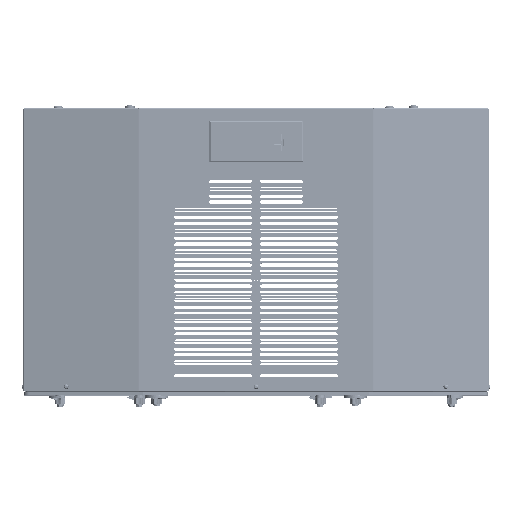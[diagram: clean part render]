
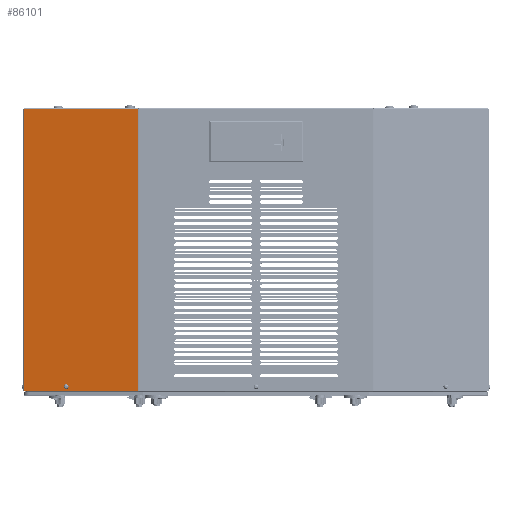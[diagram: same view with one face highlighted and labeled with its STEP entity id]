
A CAD part, top view. The second image highlights one B-rep face of the part: STEP entity #86101.
In plain terms, the highlighted planar face has unit normal (-0.174, 0, 0.985).
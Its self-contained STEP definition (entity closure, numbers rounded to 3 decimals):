
#3235 = DIRECTION ( 'NONE',  ( 0.985, 0., 0.174 ) ) ;
#3648 = CARTESIAN_POINT ( 'NONE',  ( -396.438, 481.1, 250.039 ) ) ;
#5437 = CARTESIAN_POINT ( 'NONE',  ( -324.941, 6., 262.646 ) ) ;
#10620 = VERTEX_POINT ( 'NONE', #75903 ) ;
#13368 = ORIENTED_EDGE ( 'NONE', *, *, #43612, .T. ) ;
#14526 = VERTEX_POINT ( 'NONE', #217756 ) ;
#15076 = AXIS2_PLACEMENT_3D ( 'NONE', #5437, #186628, #3235 ) ;
#18037 = ORIENTED_EDGE ( 'NONE', *, *, #177213, .T. ) ;
#27476 = CARTESIAN_POINT ( 'NONE',  ( -299.705, 249., 267.096 ) ) ;
#28008 = AXIS2_PLACEMENT_3D ( 'NONE', #27476, #178649, #94163 ) ;
#29804 = CARTESIAN_POINT ( 'NONE',  ( -396.438, 481.1, 250.039 ) ) ;
#37307 = DIRECTION ( 'NONE',  ( 0.985, 0., 0.174 ) ) ;
#37716 = EDGE_CURVE ( 'NONE', #139993, #131812, #153827, .T. ) ;
#38091 = DIRECTION ( 'NONE',  ( 0.985, 0., 0.174 ) ) ;
#38925 = EDGE_CURVE ( 'NONE', #125644, #139993, #112583, .T. ) ;
#41527 = DIRECTION ( 'NONE',  ( 0.174, 0., -0.985 ) ) ;
#43612 = EDGE_CURVE ( 'NONE', #10620, #14526, #120817, .T. ) ;
#46838 = EDGE_CURVE ( 'NONE', #67033, #179884, #127323, .T. ) ;
#47964 = AXIS2_PLACEMENT_3D ( 'NONE', #161499, #41527, #109287 ) ;
#59781 = EDGE_CURVE ( 'NONE', #204065, #183757, #204003, .T. ) ;
#66144 = VECTOR ( 'NONE', #136055, 1000. ) ;
#67033 = VERTEX_POINT ( 'NONE', #137640 ) ;
#73133 = EDGE_CURVE ( 'NONE', #183757, #125644, #206983, .T. ) ;
#74716 = CARTESIAN_POINT ( 'NONE',  ( -201.622, 481.1, 284.39 ) ) ;
#75903 = CARTESIAN_POINT ( 'NONE',  ( -322.233, 6., 263.123 ) ) ;
#79542 = FACE_BOUND ( 'NONE', #199566, .T. ) ;
#82114 = EDGE_CURVE ( 'NONE', #179884, #67033, #143749, .T. ) ;
#83695 = DIRECTION ( 'NONE',  ( 0.985, 0., 0.174 ) ) ;
#85991 = CIRCLE ( 'NONE', #15076, 2.75 ) ;
#86101 = ADVANCED_FACE ( 'NONE', ( #113964, #178508, #79542 ), #181759, .F. ) ;
#94163 = DIRECTION ( 'NONE',  ( -0.985, 0., -0.174 ) ) ;
#94435 = EDGE_LOOP ( 'NONE', ( #13368, #18037 ) ) ;
#96065 = ORIENTED_EDGE ( 'NONE', *, *, #59781, .F. ) ;
#96200 = CARTESIAN_POINT ( 'NONE',  ( -201., 481.1, 284.5 ) ) ;
#105522 = CARTESIAN_POINT ( 'NONE',  ( -396.438, -1., 250.039 ) ) ;
#109287 = DIRECTION ( 'NONE',  ( -0.985, 0., -0.174 ) ) ;
#112583 = LINE ( 'NONE', #180377, #212038 ) ;
#113964 = FACE_BOUND ( 'NONE', #94435, .T. ) ;
#120817 = CIRCLE ( 'NONE', #212951, 2.75 ) ;
#125644 = VERTEX_POINT ( 'NONE', #146744 ) ;
#126267 = DIRECTION ( 'NONE',  ( -0.985, 0., -0.174 ) ) ;
#127323 = CIRCLE ( 'NONE', #28008, 0.05 ) ;
#127956 = VECTOR ( 'NONE', #38091, 1000. ) ;
#131812 = VERTEX_POINT ( 'NONE', #105522 ) ;
#133367 = ORIENTED_EDGE ( 'NONE', *, *, #82114, .T. ) ;
#136055 = DIRECTION ( 'NONE',  ( -0.985, 0., -0.174 ) ) ;
#137640 = CARTESIAN_POINT ( 'NONE',  ( -299.656, 249., 267.104 ) ) ;
#138234 = CARTESIAN_POINT ( 'NONE',  ( -201.224, -1., 284.461 ) ) ;
#139993 = VERTEX_POINT ( 'NONE', #168233 ) ;
#140684 = ORIENTED_EDGE ( 'NONE', *, *, #37716, .F. ) ;
#141133 = VECTOR ( 'NONE', #189215, 1000. ) ;
#142958 = DIRECTION ( 'NONE',  ( 0.174, 0., -0.985 ) ) ;
#143749 = CIRCLE ( 'NONE', #47964, 0.05 ) ;
#146744 = CARTESIAN_POINT ( 'NONE',  ( -201.224, 481.1, 284.461 ) ) ;
#151980 = AXIS2_PLACEMENT_3D ( 'NONE', #96200, #142958, #126267 ) ;
#153827 = LINE ( 'NONE', #138234, #66144 ) ;
#154001 = CARTESIAN_POINT ( 'NONE',  ( -201., 481.1, 284.5 ) ) ;
#161499 = CARTESIAN_POINT ( 'NONE',  ( -299.705, 249., 267.096 ) ) ;
#168233 = CARTESIAN_POINT ( 'NONE',  ( -201.224, -1., 284.461 ) ) ;
#168407 = ORIENTED_EDGE ( 'NONE', *, *, #38925, .F. ) ;
#169247 = CARTESIAN_POINT ( 'NONE',  ( -324.941, 6., 262.646 ) ) ;
#169900 = ORIENTED_EDGE ( 'NONE', *, *, #194772, .F. ) ;
#171423 = DIRECTION ( 'NONE',  ( 0.174, 0., -0.985 ) ) ;
#177213 = EDGE_CURVE ( 'NONE', #14526, #10620, #85991, .T. ) ;
#178508 = FACE_OUTER_BOUND ( 'NONE', #205125, .T. ) ;
#178649 = DIRECTION ( 'NONE',  ( 0.174, 0., -0.985 ) ) ;
#179884 = VERTEX_POINT ( 'NONE', #183196 ) ;
#180377 = CARTESIAN_POINT ( 'NONE',  ( -201.224, -242.052, 284.461 ) ) ;
#181759 = PLANE ( 'NONE',  #151980 ) ;
#183196 = CARTESIAN_POINT ( 'NONE',  ( -299.754, 249., 267.087 ) ) ;
#183757 = VERTEX_POINT ( 'NONE', #74716 ) ;
#186432 = ORIENTED_EDGE ( 'NONE', *, *, #46838, .T. ) ;
#186628 = DIRECTION ( 'NONE',  ( 0.174, 0., -0.985 ) ) ;
#189215 = DIRECTION ( 'NONE',  ( 0., 1., 0. ) ) ;
#191399 = CARTESIAN_POINT ( 'NONE',  ( -201.622, 481.1, 284.39 ) ) ;
#194772 = EDGE_CURVE ( 'NONE', #131812, #204065, #206971, .T. ) ;
#199566 = EDGE_LOOP ( 'NONE', ( #133367, #186432 ) ) ;
#202653 = VECTOR ( 'NONE', #37307, 1000. ) ;
#204003 = LINE ( 'NONE', #154001, #202653 ) ;
#204065 = VERTEX_POINT ( 'NONE', #29804 ) ;
#204913 = ORIENTED_EDGE ( 'NONE', *, *, #73133, .F. ) ;
#205125 = EDGE_LOOP ( 'NONE', ( #140684, #168407, #204913, #96065, #169900 ) ) ;
#206971 = LINE ( 'NONE', #3648, #141133 ) ;
#206983 = LINE ( 'NONE', #191399, #127956 ) ;
#210425 = DIRECTION ( 'NONE',  ( 0., -1., 0. ) ) ;
#212038 = VECTOR ( 'NONE', #210425, 1000. ) ;
#212951 = AXIS2_PLACEMENT_3D ( 'NONE', #169247, #171423, #83695 ) ;
#217756 = CARTESIAN_POINT ( 'NONE',  ( -327.649, 6., 262.168 ) ) ;
